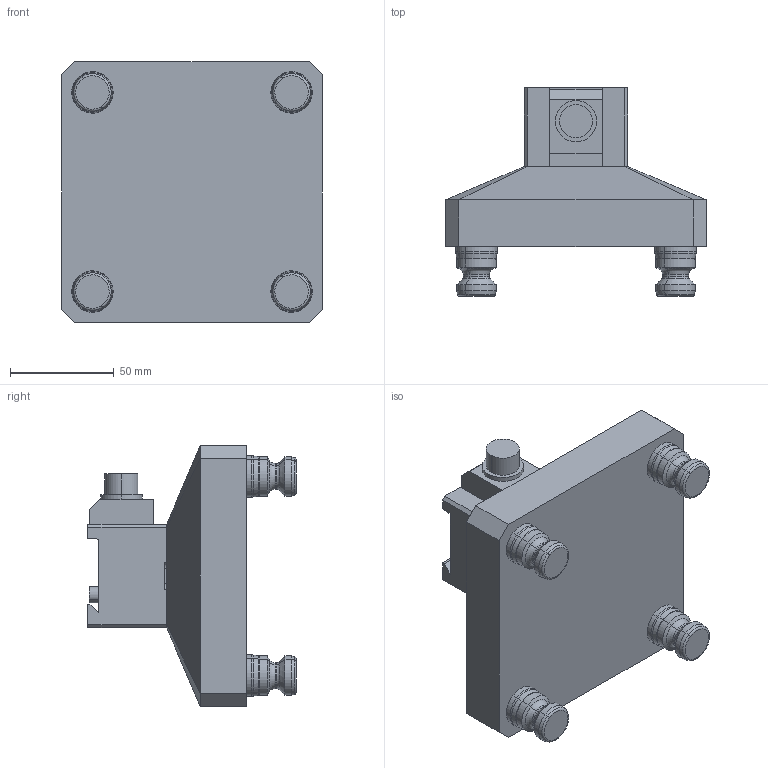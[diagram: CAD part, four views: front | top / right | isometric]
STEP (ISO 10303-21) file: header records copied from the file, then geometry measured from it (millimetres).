
FILE_DESCRIPTION (( 'STEP AP214' ), '1' );
FILE_NAME ('D_R96-DM50.STEP', '2020-03-13T21:43:34', ( '' ), ( '' ), 'SwSTEP 2.0', 'SolidWorks 2018', '' );
FILE_SCHEMA (( 'AUTOMOTIVE_DESIGN' ));
Length unit declared in the file: millimetre
Products named in the file (7): D_R96-DM50-1; D_DM50-2; D_DM50-3_LP8; D_PS20F_HARD TURN; D_R96-DM50; D_DM50-1_METRIC UPDATED; D_DM50
Assembly tree (9 placements, depth 3):
  D_R96-DM50
    D_R96-DM50-1
    D_PS20F_HARD TURN  x4
    D_DM50
      D_DM50-1_METRIC UPDATED
      D_DM50-2
      D_DM50-3_LP8
Bounding box: 125.73 x 100.4 x 125.73 mm (x, y, z)
Volume: 574517 mm3; surface area: 79282.4 mm2
Topology: 8 solids, 8 shells, 321 faces, 692 edges, 403 vertices
Faces by surface type: cylinder 104, plane 95, torus 64, cone 58
Entity records: 6296 total; most frequent: DIRECTION 1072, CARTESIAN_POINT 950, ORIENTED_EDGE 900, EDGE_CURVE 450, AXIS2_PLACEMENT_3D 405, VERTEX_POINT 283, VECTOR 262, LINE 262
